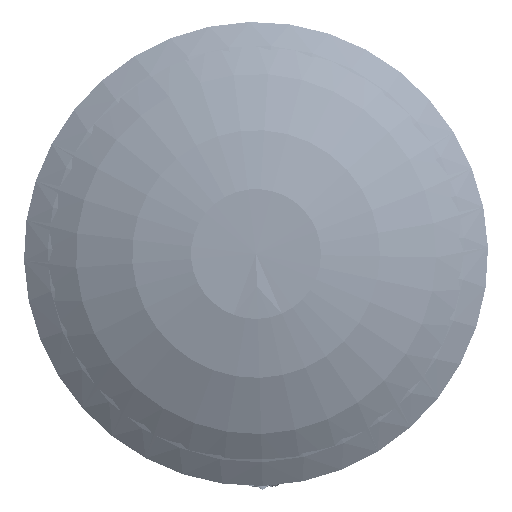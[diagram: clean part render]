
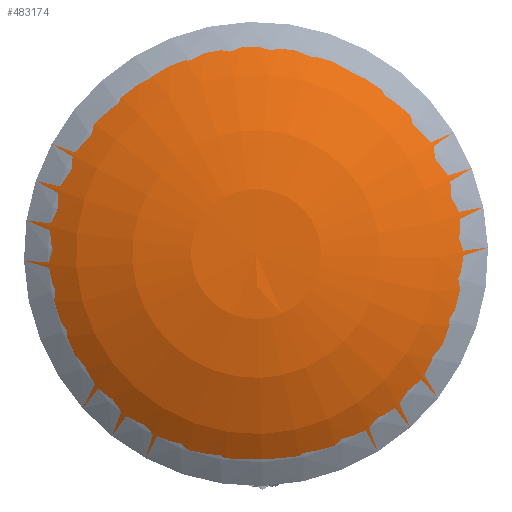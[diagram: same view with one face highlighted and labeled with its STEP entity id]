
A CAD part, front view. The second image highlights one B-rep face of the part: STEP entity #483174.
In plain terms, the highlighted toroidal (fillet/blend) face has major radius 100 mm and minor radius 1416.84 mm.
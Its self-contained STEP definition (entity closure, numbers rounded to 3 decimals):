
#145434 = TOROIDAL_SURFACE ( 'NONE', #268049, 100., 1416.837 ) ;
#182148 = CARTESIAN_POINT ( 'NONE',  ( 0., -912.605, -912.664 ) ) ;
#249472 = VERTEX_POINT ( 'NONE', #182148 ) ;
#268049 = AXIS2_PLACEMENT_3D ( 'NONE', #846100, #918288, #692265 ) ;
#405686 = DIRECTION ( 'NONE',  ( 0., 0., -1. ) ) ;
#483174 = ADVANCED_FACE ( 'NONE', ( #764245 ), #145434, .T. ) ;
#497544 = CIRCLE ( 'NONE', #743029, 912.664 ) ;
#610039 = EDGE_LOOP ( 'NONE', ( #780786 ) ) ;
#692265 = DIRECTION ( 'NONE',  ( 0., 0., -1. ) ) ;
#703729 = DIRECTION ( 'NONE',  ( 0., -1., 0. ) ) ;
#743029 = AXIS2_PLACEMENT_3D ( 'NONE', #929760, #703729, #405686 ) ;
#764245 = FACE_OUTER_BOUND ( 'NONE', #610039, .T. ) ;
#780786 = ORIENTED_EDGE ( 'NONE', *, *, #842427, .F. ) ;
#842427 = EDGE_CURVE ( 'NONE', #249472, #249472, #497544, .T. ) ;
#846100 = CARTESIAN_POINT ( 'NONE',  ( 0., 248., 0. ) ) ;
#918288 = DIRECTION ( 'NONE',  ( 0., -1., 0. ) ) ;
#929760 = CARTESIAN_POINT ( 'NONE',  ( 0., -912.605, 0. ) ) ;
